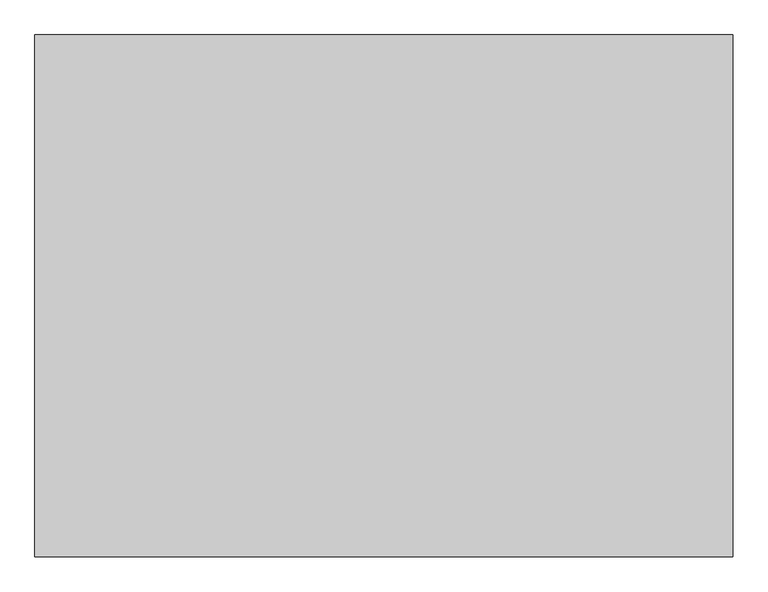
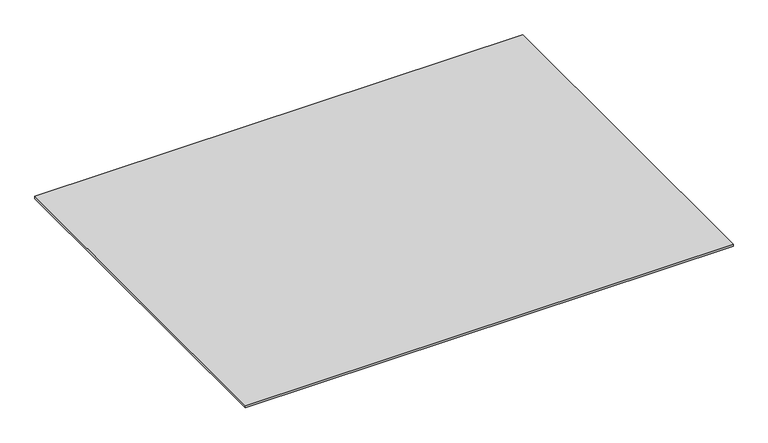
"""IFC4 building model written with IfcOpenShell, lengths in millimetres: proxy geometry, AQUAPANEL Tape (10 cm) : AQUAPANEL Tape (10 cm)."""

from ifc_helpers import new_model, si_unit, origin, origin_with_axes, place, context, project, spatial, polyline, outline, extrude, source, transform, mapped, element, save


def generic_models_5f63de2d(model_context):
    return source(origin(), model_context, "Body", "SweptSolid", [
        extrude(outline(polyline([(18419.0859727, 17118.0179221), (18419.0859727, 16225.7179647), (17225.2945622, 16225.7179647), (17225.2945622, 17118.0179221), (18419.0859727, 17118.0179221)])), origin_with_axes(), (0.0, 0.0, 1.0), 6.0),
    ])


if __name__ == "__main__":
    model = new_model("IFC4")
    model_context = context("Model", 3, world=origin())
    ifc_project = project(units=[si_unit("LENGTHUNIT", "METRE", prefix="MILLI")], contexts=[model_context])
    site = spatial("IfcSite", under=ifc_project)
    building = spatial("IfcBuilding", under=site)
    placement = place(None, origin())
    generic_models_shape = generic_models_5f63de2d(model_context)
    element("IfcBuildingElementProxy", 1, Name="AQUAPANEL Tape (10 cm) : AQUAPANEL Tape (10 cm)", ObjectType="AQUAPANEL Tape (10 cm) : AQUAPANEL Tape (10 cm)", at=placement, inside=building, context=model_context, shape_type="MappedRepresentation", body=[
        mapped(generic_models_shape, transform((0.0, 0.0, 0.0), x_axis=(1.0, 0.0, 0.0), y_axis=(0.0, 1.0, 0.0), z_axis=(0.0, 0.0, 1.0))),
    ])
    save(model, "model.ifc")
